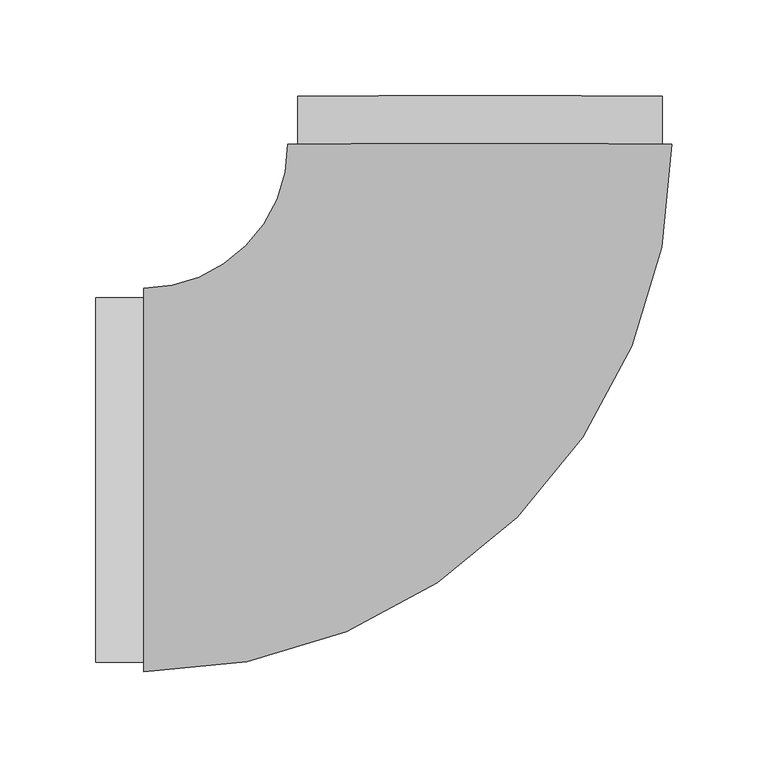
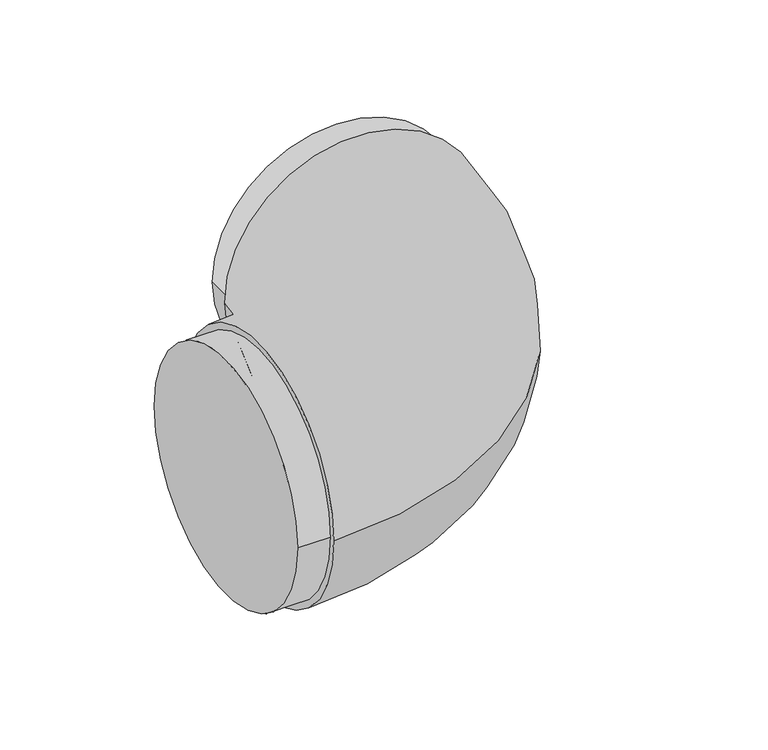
"""IFC4 building model written with IfcOpenShell, lengths in millimetres: pipe fitting geometry, Codo 90º Soldadura a Tope SDR 11 BluePipe : Estándar."""

from ifc_helpers import new_model, si_unit, point, frame, origin, origin_2d, place, context, project, spatial, circle_curve, ellipse_curve, trimmed, segment, composite_curve, outline, extrude, source, transform, mapped, element, save
from ifc_brep_helpers import plane_surface, revolved_surface, advanced_brep


def pipe_fitting_2f38fb91(model_context):
    return source(origin(), model_context, "Body", "SolidModel", [
        extrude(outline(composite_curve([segment(trimmed(circle_curve(origin_2d(), 95.0), [point((0.0, -95.0))], [point((0.0, 95.0))], False, "CARTESIAN"), True, "CONTINUOUS"), segment(trimmed(circle_curve(origin_2d(), 95.0), [point((0.0, 95.0))], [point((0.0, -95.0))], False, "CARTESIAN"), True, "CONTINUOUS")], self_intersect=False)), frame((0.0, 175.0, 0.0), z_axis=(0.0, 1.0, 0.0), x_axis=(0.0, 0.0, 1.0)), (0.0, 0.0, 1.0), 25.0),
        extrude(outline(composite_curve([segment(trimmed(circle_curve(origin_2d(), 95.0), [point((-95.0, 0.0))], [point((95.0, 0.0))], False, "CARTESIAN"), True, "CONTINUOUS"), segment(trimmed(circle_curve(origin_2d(), 95.0), [point((95.0, 0.0))], [point((-95.0, 0.0))], False, "CARTESIAN"), True, "CONTINUOUS")], self_intersect=False)), frame((-200.0, 0.0, 0.0), z_axis=(1.0, 0.0, 0.0), x_axis=(0.0, 1.0, 0.0)), (0.0, 0.0, 1.0), 25.0),
        advanced_brep(
        [(-175.0, -100.0, 0.0), (-175.0, 100.0, 0.0), (100.0, 175.0, 0.0), (-100.0, 175.0, 0.0)],
        [
            (0, 1, circle_curve(frame((-175.0, 0.0, 0.0), z_axis=(-1.0, 0.0, 0.0), x_axis=(0.0, 1.0, 0.0)), 100.0)),
            (1, 0, circle_curve(frame((-175.0, 0.0, 0.0), z_axis=(-1.0, 0.0, 0.0), x_axis=(0.0, 1.0, 0.0)), 100.0)),
            (2, 3, circle_curve(frame((0.0, 175.0, 0.0), z_axis=(0.0, 1.0, 0.0), x_axis=(-1.0, 0.0, 0.0)), 100.0)),
            (3, 2, circle_curve(frame((0.0, 175.0, 0.0), z_axis=(0.0, 1.0, 0.0), x_axis=(-1.0, 0.0, 0.0)), 100.0)),
            (3, 1, circle_curve(frame((-175.0, 175.0, 0.0), z_axis=(0.0, 0.0, -1.0), x_axis=(0.0, -1.0, 0.0)), 75.0)),
            (0, 2, circle_curve(frame((-175.0, 175.0, 0.0), z_axis=(0.0, 0.0, 1.0), x_axis=(0.0, -1.0, 0.0)), 275.0)),
        ],
        [
            plane_surface(frame((-175.0, 0.0, 0.0), z_axis=(-1.0, 0.0, 0.0), x_axis=(0.0, 0.0, 1.0))),
            plane_surface(frame((0.0, 175.0, 0.0), z_axis=(0.0, 1.0, 0.0), x_axis=(0.0, 0.0, 1.0))),
            revolved_surface(trimmed(ellipse_curve(frame((-175.0, 0.0, 0.0), z_axis=(-1.0, 0.0, 0.0), x_axis=(0.0, 1.0, 0.0)), 100.0, 100.0), [point((-175.0, -100.0, 0.0))], [point((-175.0, 100.0, 0.0))], True, "CARTESIAN"), (-175.0, 175.0, 0.0), (0.0, 0.0, 1.0)),
            revolved_surface(trimmed(ellipse_curve(frame((-175.0, 0.0, 0.0), z_axis=(-1.0, 0.0, 0.0), x_axis=(0.0, 1.0, 0.0)), 100.0, 100.0), [point((-175.0, 100.0, 0.0))], [point((-175.0, -100.0, 0.0))], True, "CARTESIAN"), (-175.0, 175.0, 0.0), (0.0, 0.0, 1.0)),
        ],
        [
            (0, [[1, 2]]),
            (1, [[3, 4]]),
            (2, [[5, -1, 6, -4]]),
            (3, [[-6, -2, -5, -3]]),
        ],
    ),
    ])


if __name__ == "__main__":
    model = new_model("IFC4")
    model_context = context("Model", 3, world=origin())
    ifc_project = project(units=[si_unit("LENGTHUNIT", "METRE", prefix="MILLI")], contexts=[model_context])
    site = spatial("IfcSite", under=ifc_project)
    building = spatial("IfcBuilding", under=site)
    placement = place(None, origin())
    pipe_fitting_shape = pipe_fitting_2f38fb91(model_context)
    element("IfcPipeFitting", 1, ObjectType="Codo 90º Soldadura a Tope SDR 11 BluePipe : Estándar", at=placement, inside=building, context=model_context, shape_type="MappedRepresentation", body=[
        mapped(pipe_fitting_shape, transform((0.0, 0.0, 0.0), x_axis=(1.0, 0.0, 0.0), y_axis=(0.0, 1.0, 0.0), z_axis=(0.0, 0.0, 1.0))),
    ])
    save(model, "model.ifc")
